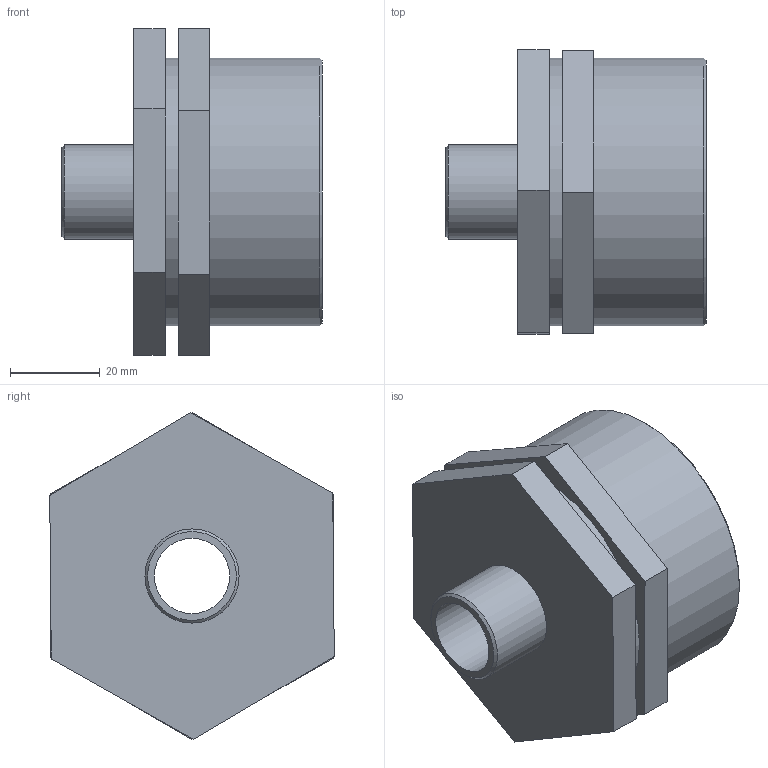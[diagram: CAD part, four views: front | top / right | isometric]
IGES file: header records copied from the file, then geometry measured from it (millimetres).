
Global section: file name: 050605020005_0506050200050A.ipt; native system: Autodesk Inventor 2015; preprocessor: unknown; author: KIM; date: 20170618.093233; units: millimetre
Bounding box: 58 x 63.34 x 72.75 mm (x, y, z)
Volume: 64294.3 mm3; surface area: 23444.4 mm2
Topology: 1 solids, 1 shells, 26 faces, 59 edges, 40 vertices
Faces by surface type: plane 19, cylinder 3, cone 2, revolution 2
Full cylindrical faces by diameter (mm): 20.955 x1, 59.614 x2
